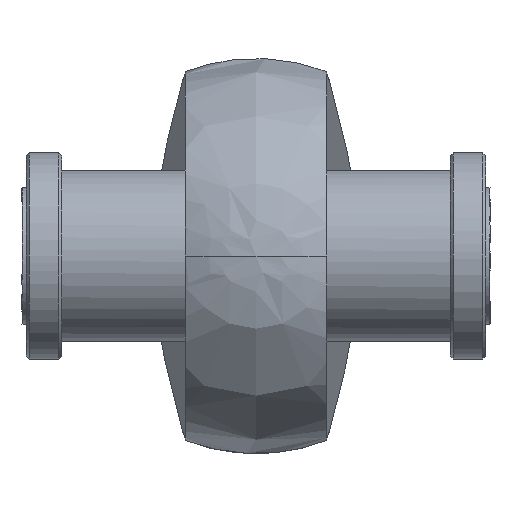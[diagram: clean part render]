
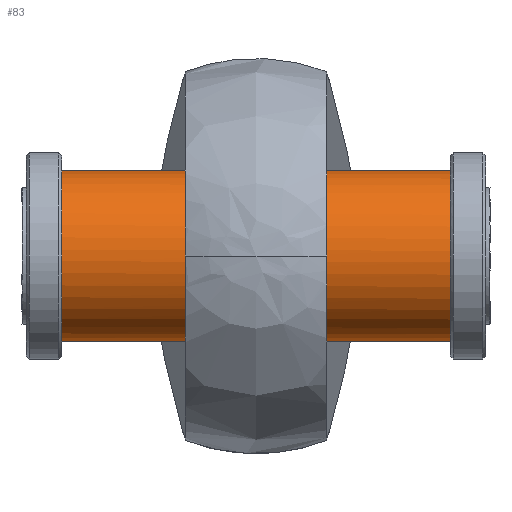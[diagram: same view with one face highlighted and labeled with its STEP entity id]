
A CAD part, left-side view. The second image highlights one B-rep face of the part: STEP entity #83.
In plain terms, the highlighted cylindrical face has radius 14.5 mm (diameter 29 mm), a full revolution.
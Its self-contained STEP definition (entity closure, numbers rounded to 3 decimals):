
#83=ADVANCED_FACE('',(#157),#1214,.T.);
#157=FACE_OUTER_BOUND('',#238,.T.);
#238=EDGE_LOOP('',(#506,#507,#508,#509));
#506=ORIENTED_EDGE('',*,*,#774,.T.);
#507=ORIENTED_EDGE('',*,*,#776,.T.);
#508=ORIENTED_EDGE('',*,*,#775,.T.);
#509=ORIENTED_EDGE('',*,*,#776,.F.);
#774=EDGE_CURVE('',#1128,#1128,#983,.T.);
#775=EDGE_CURVE('',#1129,#1129,#984,.T.);
#776=EDGE_CURVE('',#1128,#1129,#897,.T.);
#897=B_SPLINE_CURVE_WITH_KNOTS('',1,(#2248,#2249),.UNSPECIFIED.,.F.,.F.,
(2,2),(6.707,72.582),.UNSPECIFIED.);
#983=(
BOUNDED_CURVE()
B_SPLINE_CURVE(2,(#2230,#2231,#2232,#2233,#2234,#2235,#2236,#2237,#2238),
 .UNSPECIFIED.,.T.,.F.)
B_SPLINE_CURVE_WITH_KNOTS((3,2,2,2,3),(0.,22.777,45.553,
68.33,91.106),.UNSPECIFIED.)
CURVE()
GEOMETRIC_REPRESENTATION_ITEM()
RATIONAL_B_SPLINE_CURVE((1.,0.707,1.,0.707,1.,0.707,
1.,0.707,1.))
REPRESENTATION_ITEM('')
);
#984=(
BOUNDED_CURVE()
B_SPLINE_CURVE(2,(#2239,#2240,#2241,#2242,#2243,#2244,#2245,#2246,#2247),
 .UNSPECIFIED.,.T.,.F.)
B_SPLINE_CURVE_WITH_KNOTS((3,2,2,2,3),(0.,22.777,45.553,
68.33,91.106),.UNSPECIFIED.)
CURVE()
GEOMETRIC_REPRESENTATION_ITEM()
RATIONAL_B_SPLINE_CURVE((1.,0.707,1.,0.707,1.,0.707,
1.,0.707,1.))
REPRESENTATION_ITEM('')
);
#1128=VERTEX_POINT('',#2182);
#1129=VERTEX_POINT('',#2183);
#1214=CYLINDRICAL_SURFACE('',#1366,14.5);
#1366=AXIS2_PLACEMENT_3D('',#2172,#1412,$);
#1412=DIRECTION('',(0.,-1.,0.));
#2172=CARTESIAN_POINT('',(0.,0.,0.));
#2182=CARTESIAN_POINT('',(14.5,32.937,0.));
#2183=CARTESIAN_POINT('',(14.5,-32.937,0.));
#2230=CARTESIAN_POINT('',(14.5,32.937,0.));
#2231=CARTESIAN_POINT('',(14.5,32.937,14.5));
#2232=CARTESIAN_POINT('',(0.,32.937,14.5));
#2233=CARTESIAN_POINT('',(-14.5,32.937,14.5));
#2234=CARTESIAN_POINT('',(-14.5,32.937,0.));
#2235=CARTESIAN_POINT('',(-14.5,32.937,-14.5));
#2236=CARTESIAN_POINT('',(0.,32.937,-14.5));
#2237=CARTESIAN_POINT('',(14.5,32.937,-14.5));
#2238=CARTESIAN_POINT('',(14.5,32.937,0.));
#2239=CARTESIAN_POINT('',(14.5,-32.937,0.));
#2240=CARTESIAN_POINT('',(14.5,-32.937,-14.5));
#2241=CARTESIAN_POINT('',(0.,-32.937,-14.5));
#2242=CARTESIAN_POINT('',(-14.5,-32.937,-14.5));
#2243=CARTESIAN_POINT('',(-14.5,-32.937,0.));
#2244=CARTESIAN_POINT('',(-14.5,-32.937,14.5));
#2245=CARTESIAN_POINT('',(0.,-32.937,14.5));
#2246=CARTESIAN_POINT('',(14.5,-32.937,14.5));
#2247=CARTESIAN_POINT('',(14.5,-32.937,0.));
#2248=CARTESIAN_POINT('',(14.5,32.937,0.));
#2249=CARTESIAN_POINT('',(14.5,-32.937,0.));
